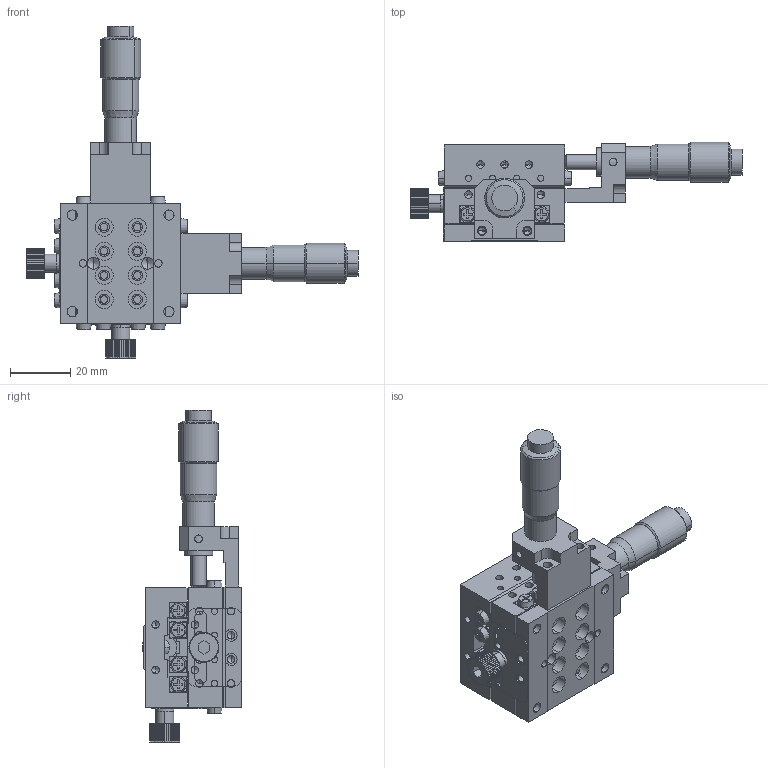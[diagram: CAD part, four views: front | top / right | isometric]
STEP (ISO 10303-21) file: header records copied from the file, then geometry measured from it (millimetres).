
FILE_DESCRIPTION (( 'STEP AP203' ), '1' );
FILE_NAME ('JCXY-40CS.STEP', '2019-02-12T00:57:03', ( 'Windows 餌辨濠' ), ( '' ), 'SwSTEP 2.0', 'SolidWorks 2018', '' );
FILE_SCHEMA (( 'CONFIG_CONTROL_DESIGN' ));
Length unit declared in the file: millimetre
Products named in the file (10): FC-PL-26X18; JCXY-40CS; FB-JCX40(20H)(JV2-40)-BD-03; JV2-40-8; FC-SJ-3; FC-NB-10; JALB-72-R; FB-JCX40(20H)(JV2-40)-BD-02; FB-JCX-BK-C-01; FB-JCX40(20H)(JV2-40)-BD-01
Assembly tree (21 placements, depth 2):
  JCXY-40CS
    FB-JCX40(20H)(JV2-40)-BD-03
    JV2-40-8  x8
    FB-JCX40(20H)(JV2-40)-BD-01
    FB-JCX40(20H)(JV2-40)-BD-02
    FB-JCX-BK-C-01  x2
    JALB-72-R  x2
    FC-PL-26X18  x2
    FC-NB-10  x2
    FC-SJ-3  x2
Bounding box: 110.1 x 32.9 x 110.1 mm (x, y, z)
Volume: 57271.4 mm3; surface area: 43197.5 mm2
Topology: 21 solids, 21 shells, 1908 faces, 5032 edges, 3120 vertices
Faces by surface type: cylinder 948, plane 756, cone 196, sphere 8
Entity records: 28913 total; most frequent: CARTESIAN_POINT 5134, DIRECTION 5003, ORIENTED_EDGE 4470, EDGE_CURVE 2235, AXIS2_PLACEMENT_3D 1936, VERTEX_POINT 1437, LINE 1131, VECTOR 1131
